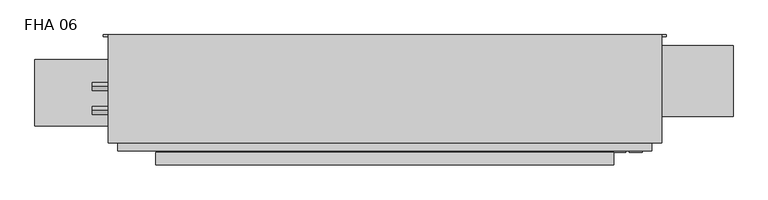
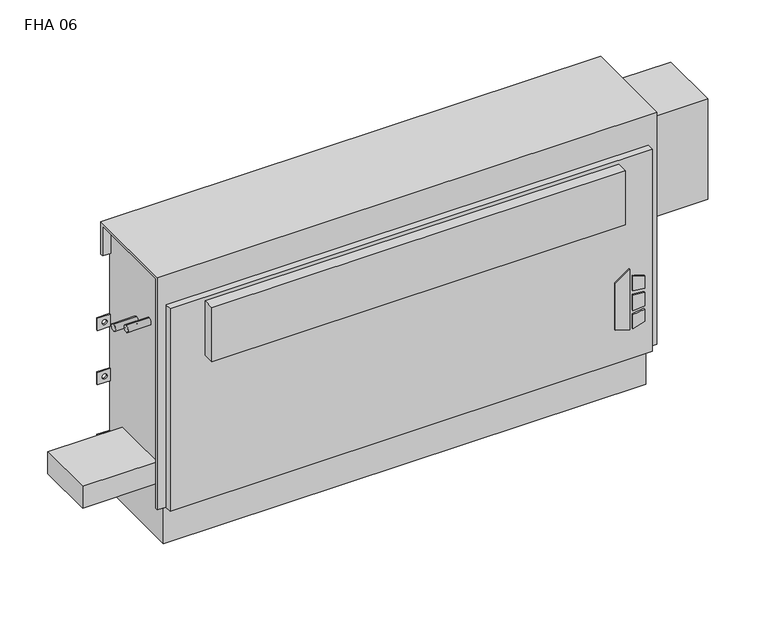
"""IFC4 building model written with IfcOpenShell, lengths in millimetres: proxy geometry, Vertical_Fan_Coil_Unit_-_FHA_-_IEC_-_2-Pipe_FS-FR_LH_2022 : FHA 06."""

from ifc_helpers import new_model, si_unit, point, frame, frame_2d, origin, place, context, project, spatial, polyline, circle_curve, trimmed, segment, composite_curve, outline, extrude, source, transform, mapped, element, save
from ifc_brep_helpers import plane_surface, revolved_surface, advanced_brep


def fha_06_5ad67739(model_context):
    return source(origin(), model_context, "Body", "SolidModel", [
        extrude(outline(polyline([(172.5771459, 601.7368862), (162.6290756, 633.9102728), (304.8, 633.9102728), (281.7779939, 601.7368862), (172.5771459, 601.7368862)])), frame((0.0, 9.525, 0.0), z_axis=(0.0, 1.0, 0.0), x_axis=(0.0, 0.0, 1.0)), (0.0, 0.0, 1.0), 3.175),
        extrude(outline(polyline([(251.5764313, 640.6686058), (248.3740387, 666.75), (277.6028798, 666.75), (285.6672948, 640.6686058), (251.5764313, 640.6686058)])), frame((0.0, 9.525, 0.0), z_axis=(0.0, 1.0, 0.0), x_axis=(0.0, 0.0, 1.0)), (0.0, 0.0, 1.0), 3.175),
        extrude(outline(polyline([(199.7129044, 666.75), (196.0474034, 640.6686058), (162.6290756, 640.6686058), (171.2633128, 666.75), (199.7129044, 666.75)])), frame((0.0, 9.525, 0.0), z_axis=(0.0, 1.0, 0.0), x_axis=(0.0, 0.0, 1.0)), (0.0, 0.0, 1.0), 3.175),
        extrude(outline(polyline([(239.0280658, 666.75), (241.3098921, 640.6686058), (205.3723436, 640.6686058), (208.1136086, 666.75), (239.0280658, 666.75)])), frame((0.0, 9.525, 0.0), z_axis=(0.0, 1.0, 0.0), x_axis=(0.0, 0.0, 1.0)), (0.0, 0.0, 1.0), 3.175),
        extrude(outline(composite_curve([segment(trimmed(circle_curve(frame_2d((-444.5, 128.5875)), 9.525), [point((-454.025, 128.5875))], [point((-434.975, 128.5875))], False, "CARTESIAN"), True, "CONTINUOUS"), segment(trimmed(circle_curve(frame_2d((-444.5, 128.5875)), 9.525), [point((-434.975, 128.5875))], [point((-454.025, 128.5875))], False, "CARTESIAN"), True, "CONTINUOUS")], self_intersect=False)), frame((0.0, 0.0, 101.6), z_axis=(0.0, 0.0, 1.0), x_axis=(1.0, 0.0, 0.0)), (0.0, 0.0, 1.0), 25.4),
        extrude(outline(polyline([(-546.1, 61.9125), (-546.1, 195.2625), (-381.0, 195.2625), (-381.0, 61.9125), (-546.1, 61.9125)])), frame((0.0, 0.0, 127.0), z_axis=(0.0, 0.0, 1.0), x_axis=(1.0, 0.0, 0.0)), (0.0, 0.0, 1.0), 50.8),
        extrude(outline(polyline([(609.6, -15.875), (-304.8, -15.875), (-304.8, 9.525), (609.6, 9.525), (609.6, -15.875)])), frame((0.0, 0.0, 431.8), z_axis=(0.0, 0.0, 1.0), x_axis=(1.0, 0.0, 0.0)), (0.0, 0.0, 1.0), 127.0),
        extrude(outline(composite_curve([segment(trimmed(circle_curve(frame_2d((93.1926, 488.0102)), 7.9375), [point((93.1926, 495.9477))], [point((93.1926, 480.0727))], False, "CARTESIAN"), True, "CONTINUOUS"), segment(trimmed(circle_curve(frame_2d((93.1926, 488.0102)), 7.9375), [point((93.1926, 480.0727))], [point((93.1926, 495.9477))], False, "CARTESIAN"), True, "CONTINUOUS")], self_intersect=False)), frame((-431.8, 0.0, 0.0), z_axis=(1.0, 0.0, 0.0), x_axis=(0.0, 1.0, 0.0)), (0.0, 0.0, 1.0), 50.8),
        extrude(outline(composite_curve([segment(trimmed(circle_curve(frame_2d((141.3002, 461.3402)), 7.9375), [point((141.3002, 469.2777))], [point((141.3002, 453.4027))], False, "CARTESIAN"), True, "CONTINUOUS"), segment(trimmed(circle_curve(frame_2d((141.3002, 461.3402)), 7.9375), [point((141.3002, 453.4027))], [point((141.3002, 469.2777))], False, "CARTESIAN"), True, "CONTINUOUS")], self_intersect=False)), frame((-431.8, 0.0, 0.0), z_axis=(1.0, 0.0, 0.0), x_axis=(0.0, 1.0, 0.0)), (0.0, 0.0, 1.0), 50.8),
        extrude(outline(polyline([(847.725, 223.266), (847.725, 81.534), (685.8, 81.534), (685.8, 223.266), (847.725, 223.266)])), frame((0.0, 0.0, 349.25), z_axis=(0.0, 0.0, 1.0), x_axis=(1.0, 0.0, 0.0)), (0.0, 0.0, 1.0), 234.95),
        advanced_brep(
        [(704.85, 244.475, 635.0), (-400.05, 244.475, 635.0), (-400.05, 28.575, 635.0), (704.85, 28.575, 635.0), (-381.0, 244.475, 0.0), (685.8, 244.475, 0.0), (685.8, 38.1, 0.0), (-381.0, 38.1, 0.0), (704.85, 244.475, 558.8), (685.8, 244.475, 558.8), (685.8, 244.475, 414.3375), (714.375, 244.475, 414.3375), (714.375, 244.475, 385.7625), (685.8, 244.475, 385.7625), (685.8, 244.475, 287.3375), (714.375, 244.475, 287.3375), (714.375, 244.475, 258.7625), (685.8, 244.475, 258.7625), (685.8, 244.475, 141.2875), (714.375, 244.475, 141.2875), (714.375, 244.475, 112.7125), (685.8, 244.475, 112.7125), (-381.0, 244.475, 112.7125), (-409.575, 244.475, 112.7125), (-409.575, 244.475, 141.2875), (-381.0, 244.475, 141.2875), (-381.0, 244.475, 258.7625), (-409.575, 244.475, 258.7625), (-409.575, 244.475, 287.3375), (-381.0, 244.475, 287.3375), (-381.0, 244.475, 385.7625), (-409.575, 244.475, 385.7625), (-409.575, 244.475, 414.3375), (-381.0, 244.475, 414.3375), (-381.0, 244.475, 558.8), (-400.05, 244.475, 558.8), (704.0626, 244.475, 127.0), (692.9374, 244.475, 127.0), (-388.1374, 244.475, 127.0), (-399.2626, 244.475, 127.0), (704.0626, 244.475, 273.05), (692.9374, 244.475, 273.05), (-388.1374, 244.475, 273.05), (-399.2626, 244.475, 273.05), (704.0626, 244.475, 400.05), (692.9374, 244.475, 400.05), (-388.1374, 244.475, 400.05), (-399.2626, 244.475, 400.05), (-400.05, 238.125, 558.8), (-400.05, 238.125, 628.65), (-400.05, 34.925, 628.65), (-400.05, 34.925, 92.075), (-400.05, 28.575, 92.075), (685.8, 12.7, 565.15), (-381.0, 12.7, 565.15), (-381.0, 12.7, 92.075), (685.8, 12.7, 92.075), (704.85, 28.575, 92.075), (704.85, 34.925, 92.075), (704.85, 34.925, 628.65), (704.85, 238.125, 628.65), (704.85, 238.125, 558.8), (-381.0, 28.575, 92.075), (-381.0, 28.575, 565.15), (685.8, 28.575, 565.15), (685.8, 28.575, 92.075), (-381.0, 34.925, 92.075), (-381.0, 38.1, 92.075), (685.8, 38.1, 92.075), (685.8, 34.925, 92.075), (685.8, 241.3, 112.7125), (685.8, 241.3, 141.2875), (685.8, 241.3, 258.7625), (685.8, 241.3, 287.3375), (685.8, 241.3, 385.7625), (685.8, 241.3, 414.3375), (685.8, 238.125, 558.8), (685.8, 238.125, 628.65), (685.8, 34.925, 628.65), (-381.0, 34.925, 628.65), (-381.0, 238.125, 628.65), (-381.0, 238.125, 558.8), (-381.0, 241.3, 414.3375), (-381.0, 241.3, 385.7625), (-381.0, 241.3, 287.3375), (-381.0, 241.3, 258.7625), (-381.0, 241.3, 141.2875), (-381.0, 241.3, 112.7125), (714.375, 241.3, 112.7125), (714.375, 241.3, 141.2875), (692.9374, 241.3, 127.0), (704.0626, 241.3, 127.0), (714.375, 241.3, 258.7625), (714.375, 241.3, 287.3375), (692.9374, 241.3, 273.05), (704.0626, 241.3, 273.05), (714.375, 241.3, 385.7625), (714.375, 241.3, 414.3375), (692.9374, 241.3, 400.05), (704.0626, 241.3, 400.05), (-409.575, 241.3, 141.2875), (-409.575, 241.3, 112.7125), (-399.2626, 241.3, 127.0), (-388.1374, 241.3, 127.0), (-409.575, 241.3, 287.3375), (-409.575, 241.3, 258.7625), (-399.2626, 241.3, 273.05), (-388.1374, 241.3, 273.05), (-409.575, 241.3, 414.3375), (-409.575, 241.3, 385.7625), (-399.2626, 241.3, 400.05), (-388.1374, 241.3, 400.05)],
        [
            (0, 1),
            (1, 2),
            (2, 3),
            (3, 0),
            (4, 5),
            (5, 6),
            (6, 7),
            (7, 4),
            (0, 8),
            (8, 9),
            (9, 10),
            (10, 11),
            (11, 12),
            (12, 13),
            (13, 14),
            (14, 15),
            (15, 16),
            (16, 17),
            (17, 18),
            (18, 19),
            (19, 20),
            (20, 21),
            (21, 5),
            (4, 22),
            (22, 23),
            (23, 24),
            (24, 25),
            (25, 26),
            (26, 27),
            (27, 28),
            (28, 29),
            (29, 30),
            (30, 31),
            (31, 32),
            (32, 33),
            (33, 34),
            (34, 35),
            (35, 1),
            (36, 37, circle_curve(frame((698.5, 244.475, 127.0), z_axis=(0.0, -1.0, 0.0), x_axis=(-1.0, 0.0, 0.0)), 5.5626)),
            (37, 36, circle_curve(frame((698.5, 244.475, 127.0), z_axis=(0.0, -1.0, 0.0), x_axis=(-1.0, 0.0, 0.0)), 5.5626)),
            (38, 39, circle_curve(frame((-393.7, 244.475, 127.0), z_axis=(0.0, -1.0, 0.0), x_axis=(-1.0, 0.0, 0.0)), 5.5626)),
            (39, 38, circle_curve(frame((-393.7, 244.475, 127.0), z_axis=(0.0, -1.0, 0.0), x_axis=(-1.0, 0.0, 0.0)), 5.5626)),
            (40, 41, circle_curve(frame((698.5, 244.475, 273.05), z_axis=(0.0, -1.0, 0.0), x_axis=(-1.0, 0.0, 0.0)), 5.5626)),
            (41, 40, circle_curve(frame((698.5, 244.475, 273.05), z_axis=(0.0, -1.0, 0.0), x_axis=(-1.0, 0.0, 0.0)), 5.5626)),
            (42, 43, circle_curve(frame((-393.7, 244.475, 273.05), z_axis=(0.0, -1.0, 0.0), x_axis=(-1.0, 0.0, 0.0)), 5.5626)),
            (43, 42, circle_curve(frame((-393.7, 244.475, 273.05), z_axis=(0.0, -1.0, 0.0), x_axis=(-1.0, 0.0, 0.0)), 5.5626)),
            (44, 45, circle_curve(frame((698.5, 244.475, 400.05), z_axis=(0.0, -1.0, 0.0), x_axis=(-1.0, 0.0, 0.0)), 5.5626)),
            (45, 44, circle_curve(frame((698.5, 244.475, 400.05), z_axis=(0.0, -1.0, 0.0), x_axis=(-1.0, 0.0, 0.0)), 5.5626)),
            (46, 47, circle_curve(frame((-393.7, 244.475, 400.05), z_axis=(0.0, -1.0, 0.0), x_axis=(-1.0, 0.0, 0.0)), 5.5626)),
            (47, 46, circle_curve(frame((-393.7, 244.475, 400.05), z_axis=(0.0, -1.0, 0.0), x_axis=(-1.0, 0.0, 0.0)), 5.5626)),
            (35, 48),
            (48, 49),
            (49, 50),
            (50, 51),
            (51, 52),
            (52, 2),
            (53, 54),
            (54, 55),
            (55, 56),
            (56, 53),
            (3, 57),
            (57, 58),
            (58, 59),
            (59, 60),
            (60, 61),
            (61, 8),
            (52, 62),
            (62, 63),
            (63, 64),
            (64, 65),
            (65, 57),
            (53, 64),
            (63, 54),
            (55, 62),
            (51, 66),
            (66, 67),
            (67, 68),
            (68, 69),
            (69, 58),
            (65, 56),
            (6, 68),
            (67, 7),
            (21, 70),
            (70, 71),
            (71, 18),
            (17, 72),
            (72, 73),
            (73, 14),
            (13, 74),
            (74, 75),
            (75, 10),
            (9, 76),
            (76, 77),
            (77, 78),
            (78, 69),
            (66, 79),
            (79, 80),
            (80, 81),
            (81, 34),
            (33, 82),
            (82, 83),
            (83, 30),
            (29, 84),
            (84, 85),
            (85, 26),
            (25, 86),
            (86, 87),
            (87, 22),
            (76, 61),
            (60, 77),
            (78, 59),
            (50, 79),
            (81, 48),
            (80, 49),
            (70, 88),
            (88, 89),
            (89, 71),
            (90, 91, circle_curve(frame((698.5, 241.3, 127.0), z_axis=(0.0, 1.0, 0.0), x_axis=(-1.0, 0.0, 0.0)), 5.5626)),
            (91, 90, circle_curve(frame((698.5, 241.3, 127.0), z_axis=(0.0, 1.0, 0.0), x_axis=(-1.0, 0.0, 0.0)), 5.5626)),
            (92, 93),
            (93, 73),
            (72, 92),
            (94, 95, circle_curve(frame((698.5, 241.3, 273.05), z_axis=(0.0, 1.0, 0.0), x_axis=(-1.0, 0.0, 0.0)), 5.5626)),
            (95, 94, circle_curve(frame((698.5, 241.3, 273.05), z_axis=(0.0, 1.0, 0.0), x_axis=(-1.0, 0.0, 0.0)), 5.5626)),
            (96, 97),
            (97, 75),
            (74, 96),
            (98, 99, circle_curve(frame((698.5, 241.3, 400.05), z_axis=(0.0, 1.0, 0.0), x_axis=(-1.0, 0.0, 0.0)), 5.5626)),
            (99, 98, circle_curve(frame((698.5, 241.3, 400.05), z_axis=(0.0, 1.0, 0.0), x_axis=(-1.0, 0.0, 0.0)), 5.5626)),
            (100, 101),
            (101, 87),
            (86, 100),
            (102, 103, circle_curve(frame((-393.7, 241.3, 127.0), z_axis=(0.0, 1.0, 0.0), x_axis=(-1.0, 0.0, 0.0)), 5.5626)),
            (103, 102, circle_curve(frame((-393.7, 241.3, 127.0), z_axis=(0.0, 1.0, 0.0), x_axis=(-1.0, 0.0, 0.0)), 5.5626)),
            (84, 104),
            (104, 105),
            (105, 85),
            (106, 107, circle_curve(frame((-393.7, 241.3, 273.05), z_axis=(0.0, 1.0, 0.0), x_axis=(-1.0, 0.0, 0.0)), 5.5626)),
            (107, 106, circle_curve(frame((-393.7, 241.3, 273.05), z_axis=(0.0, 1.0, 0.0), x_axis=(-1.0, 0.0, 0.0)), 5.5626)),
            (108, 109),
            (109, 83),
            (82, 108),
            (110, 111, circle_curve(frame((-393.7, 241.3, 400.05), z_axis=(0.0, 1.0, 0.0), x_axis=(-1.0, 0.0, 0.0)), 5.5626)),
            (111, 110, circle_curve(frame((-393.7, 241.3, 400.05), z_axis=(0.0, 1.0, 0.0), x_axis=(-1.0, 0.0, 0.0)), 5.5626)),
            (89, 19),
            (88, 20),
            (16, 92),
            (93, 15),
            (12, 96),
            (97, 11),
            (24, 100),
            (101, 23),
            (105, 27),
            (104, 28),
            (32, 108),
            (109, 31),
            (90, 37),
            (36, 91),
            (102, 39),
            (38, 103),
            (94, 41),
            (40, 95),
            (106, 43),
            (42, 107),
            (98, 45),
            (44, 99),
            (110, 47),
            (46, 111),
        ],
        [
            plane_surface(frame((-400.05, 244.475, 635.0), z_axis=(0.0, 0.0, 1.0), x_axis=(-1.0, 0.0, 0.0))),
            plane_surface(frame((-400.05, 244.475, 0.0), z_axis=(0.0, 0.0, -1.0), x_axis=(1.0, 0.0, 0.0))),
            plane_surface(frame((704.85, 244.475, 635.0), z_axis=(0.0, 1.0, 0.0), x_axis=(0.0, 0.0, -1.0))),
            plane_surface(frame((-400.05, 244.475, 635.0), z_axis=(-1.0, 0.0, 0.0), x_axis=(0.0, 0.0, -1.0))),
            plane_surface(frame((-400.05, 12.7, 635.0), z_axis=(0.0, -1.0, 0.0), x_axis=(0.0, 0.0, -1.0))),
            plane_surface(frame((704.85, 12.7, 635.0), z_axis=(1.0, 0.0, 0.0), x_axis=(0.0, 0.0, -1.0))),
            plane_surface(frame((-654.05, 28.575, 635.0), z_axis=(0.0, -1.0, 0.0), x_axis=(1.0, 0.0, 0.0))),
            plane_surface(frame((-654.05, 28.575, 565.15), z_axis=(0.0, 0.0, 1.0), x_axis=(1.0, 0.0, 0.0))),
            plane_surface(frame((-400.05, 12.7, 92.075), z_axis=(0.0, 0.0, -1.0), x_axis=(1.0, 0.0, 0.0))),
            plane_surface(frame((-400.05, 38.1, 92.075), z_axis=(0.0, -1.0, 0.0), x_axis=(1.0, 0.0, 0.0))),
            plane_surface(frame((685.8, 28.575, 92.075), z_axis=(1.0, 0.0, 0.0), x_axis=(0.0, -1.0, 0.0))),
            plane_surface(frame((-381.0, 28.575, 565.15), z_axis=(-1.0, 0.0, 0.0), x_axis=(0.0, -1.0, 0.0))),
            plane_surface(frame((685.8, 244.475, 0.0), z_axis=(1.0, 0.0, 0.0), x_axis=(0.0, -1.0, 0.0))),
            plane_surface(frame((-381.0, 244.475, 92.075), z_axis=(-1.0, 0.0, 0.0), x_axis=(0.0, -1.0, 0.0))),
            plane_surface(frame((685.8, 238.125, 628.65), z_axis=(0.0, -1.0, 0.0), x_axis=(1.0, 0.0, 0.0))),
            plane_surface(frame((685.8, 238.125, 558.8), z_axis=(0.0, 0.0, -1.0), x_axis=(1.0, 0.0, 0.0))),
            plane_surface(frame((685.8, 34.925, 92.075), z_axis=(0.0, 1.0, 0.0), x_axis=(1.0, 0.0, 0.0))),
            plane_surface(frame((685.8, 34.925, 628.65), z_axis=(0.0, 0.0, -1.0), x_axis=(1.0, 0.0, 0.0))),
            plane_surface(frame((-381.0, 34.925, 628.65), z_axis=(0.0, 1.0, 0.0), x_axis=(-1.0, 0.0, 0.0))),
            plane_surface(frame((-381.0, 244.475, 558.8), z_axis=(0.0, 0.0, -1.0), x_axis=(-1.0, 0.0, 0.0))),
            plane_surface(frame((-381.0, 238.125, 558.8), z_axis=(0.0, -1.0, 0.0), x_axis=(-1.0, 0.0, 0.0))),
            plane_surface(frame((-381.0, 238.125, 628.65), z_axis=(0.0, 0.0, -1.0), x_axis=(-1.0, 0.0, 0.0))),
            plane_surface(frame((714.375, 241.3, 141.2875), z_axis=(0.0, -1.0, 0.0), x_axis=(-1.0, 0.0, 0.0))),
            plane_surface(frame((685.8, 244.475, 141.2875), z_axis=(0.0, 0.0, 1.0), x_axis=(0.0, -1.0, 0.0))),
            plane_surface(frame((714.375, 244.475, 141.2875), z_axis=(1.0, 0.0, 0.0), x_axis=(0.0, -1.0, 0.0))),
            plane_surface(frame((714.375, 244.475, 112.7125), z_axis=(0.0, 0.0, -1.0), x_axis=(0.0, -1.0, 0.0))),
            plane_surface(frame((714.375, 244.475, 258.7625), z_axis=(0.0, 0.0, -1.0), x_axis=(0.0, -1.0, 0.0))),
            plane_surface(frame((685.8, 244.475, 287.3375), z_axis=(0.0, 0.0, 1.0), x_axis=(0.0, -1.0, 0.0))),
            plane_surface(frame((714.375, 244.475, 287.3375), z_axis=(1.0, 0.0, 0.0), x_axis=(0.0, -1.0, 0.0))),
            plane_surface(frame((714.375, 244.475, 385.7625), z_axis=(0.0, 0.0, -1.0), x_axis=(0.0, -1.0, 0.0))),
            plane_surface(frame((685.8, 244.475, 414.3375), z_axis=(0.0, 0.0, 1.0), x_axis=(0.0, -1.0, 0.0))),
            plane_surface(frame((714.375, 244.475, 414.3375), z_axis=(1.0, 0.0, 0.0), x_axis=(0.0, -1.0, 0.0))),
            plane_surface(frame((-409.575, 244.475, 141.2875), z_axis=(0.0, 0.0, 1.0), x_axis=(0.0, -1.0, 0.0))),
            plane_surface(frame((-381.0, 244.475, 112.7125), z_axis=(0.0, 0.0, -1.0), x_axis=(0.0, -1.0, 0.0))),
            plane_surface(frame((-409.575, 244.475, 112.7125), z_axis=(-1.0, 0.0, 0.0), x_axis=(0.0, -1.0, 0.0))),
            plane_surface(frame((-381.0, 244.475, 258.7625), z_axis=(0.0, 0.0, -1.0), x_axis=(0.0, -1.0, 0.0))),
            plane_surface(frame((-409.575, 244.475, 258.7625), z_axis=(-1.0, 0.0, 0.0), x_axis=(0.0, -1.0, 0.0))),
            plane_surface(frame((-409.575, 244.475, 287.3375), z_axis=(0.0, 0.0, 1.0), x_axis=(0.0, -1.0, 0.0))),
            plane_surface(frame((-409.575, 244.475, 414.3375), z_axis=(0.0, 0.0, 1.0), x_axis=(0.0, -1.0, 0.0))),
            plane_surface(frame((-381.0, 244.475, 385.7625), z_axis=(0.0, 0.0, -1.0), x_axis=(0.0, -1.0, 0.0))),
            plane_surface(frame((-409.575, 244.475, 385.7625), z_axis=(-1.0, 0.0, 0.0), x_axis=(0.0, -1.0, 0.0))),
            revolved_surface(polyline([(692.9374, 241.3, 127.0), (692.9374, 244.475, 127.0)]), (698.5, 244.475, 127.0), (0.0, -1.0, 0.0)),
            revolved_surface(polyline([(-399.26259999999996, 241.3, 127.0), (-399.26259999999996, 244.475, 127.0)]), (-393.7, 244.475, 127.0), (0.0, -1.0, 0.0)),
            revolved_surface(polyline([(692.9374, 241.3, 273.05), (692.9374, 244.475, 273.05)]), (698.5, 244.475, 273.05), (0.0, -1.0, 0.0)),
            revolved_surface(polyline([(-399.26259999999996, 241.3, 273.05), (-399.26259999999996, 244.475, 273.05)]), (-393.7, 244.475, 273.05), (0.0, -1.0, 0.0)),
            revolved_surface(polyline([(692.9374, 241.3, 400.05), (692.9374, 244.475, 400.05)]), (698.5, 244.475, 400.05), (0.0, -1.0, 0.0)),
            revolved_surface(polyline([(-399.26259999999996, 241.3, 400.05), (-399.26259999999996, 244.475, 400.05)]), (-393.7, 244.475, 400.05), (0.0, -1.0, 0.0)),
        ],
        [
            (0, [[1, 2, 3, 4]]),
            (1, [[5, 6, 7, 8]]),
            (2, [[-1, 9, 10, 11, 12, 13, 14, 15, 16, 17, 18, 19, 20, 21, 22, 23, -5, 24, 25, 26, 27, 28, 29, 30, 31, 32, 33, 34, 35, 36, 37, 38], [39, 40], [41, 42], [43, 44], [45, 46], [47, 48], [49, 50]]),
            (3, [[-2, -38, 51, 52, 53, 54, 55, 56]]),
            (4, [[57, 58, 59, 60]]),
            (5, [[-4, 61, 62, 63, 64, 65, 66, -9]]),
            (6, [[-3, -56, 67, 68, 69, 70, 71, -61]]),
            (7, [[-57, 72, -69, 73]]),
            (8, [[-59, 74, -67, -55, 75, 76, 77, 78, 79, -62, -71, 80]]),
            (9, [[-7, 81, -77, 82]]),
            (10, [[-70, -72, -60, -80]]),
            (11, [[-68, -74, -58, -73]]),
            (12, [[-6, -23, 83, 84, 85, -19, 86, 87, 88, -15, 89, 90, 91, -11, 92, 93, 94, 95, -78, -81]]),
            (13, [[-8, -82, -76, 96, 97, 98, 99, -36, 100, 101, 102, -32, 103, 104, 105, -28, 106, 107, 108, -24]]),
            (14, [[-93, 109, -65, 110]]),
            (15, [[-92, -10, -66, -109]]),
            (16, [[-95, 111, -63, -79]]),
            (17, [[-94, -110, -64, -111]]),
            (18, [[-96, -75, -54, 112]]),
            (19, [[-99, 113, -51, -37]]),
            (20, [[-98, 114, -52, -113]]),
            (21, [[-97, -112, -53, -114]]),
            (22, [[115, 116, 117, -84], [118, 119]]),
            (22, [[120, 121, -87, 122], [123, 124]]),
            (22, [[125, 126, -90, 127], [128, 129]]),
            (22, [[130, 131, -107, 132], [133, 134]]),
            (22, [[135, 136, 137, -104], [138, 139]]),
            (22, [[140, 141, -101, 142], [143, 144]]),
            (23, [[-117, 145, -20, -85]]),
            (24, [[-116, 146, -21, -145]]),
            (25, [[-115, -83, -22, -146]]),
            (26, [[-122, -86, -18, 147]]),
            (27, [[-121, 148, -16, -88]]),
            (28, [[-120, -147, -17, -148]]),
            (29, [[-127, -89, -14, 149]]),
            (30, [[-126, 150, -12, -91]]),
            (31, [[-125, -149, -13, -150]]),
            (32, [[-132, -106, -27, 151]]),
            (33, [[-131, 152, -25, -108]]),
            (34, [[-130, -151, -26, -152]]),
            (35, [[-137, 153, -29, -105]]),
            (36, [[-136, 154, -30, -153]]),
            (37, [[-135, -103, -31, -154]]),
            (38, [[-142, -100, -35, 155]]),
            (39, [[-141, 156, -33, -102]]),
            (40, [[-140, -155, -34, -156]]),
            (41, [[157, -39, 158, -118]]),
            (41, [[-157, -119, -158, -40]]),
            (42, [[159, -41, 160, -133]]),
            (42, [[-159, -134, -160, -42]]),
            (43, [[161, -43, 162, -123]]),
            (43, [[-161, -124, -162, -44]]),
            (44, [[163, -45, 164, -138]]),
            (44, [[-163, -139, -164, -46]]),
            (45, [[165, -47, 166, -128]]),
            (45, [[-165, -129, -166, -48]]),
            (46, [[167, -49, 168, -143]]),
            (46, [[-167, -144, -168, -50]]),
        ],
    ),
    ])


if __name__ == "__main__":
    model = new_model("IFC4")
    model_context = context("Model", 3, world=origin())
    ifc_project = project(units=[si_unit("LENGTHUNIT", "METRE", prefix="MILLI")], contexts=[model_context])
    site = spatial("IfcSite", under=ifc_project)
    building = spatial("IfcBuilding", under=site)
    placement = place(None, origin())
    fha_06_shape = fha_06_5ad67739(model_context)
    element("IfcBuildingElementProxy", 1, Name="Vertical_Fan_Coil_Unit_-_FHA_-_IEC_-_2-Pipe_FS-FR_LH_2022 : FHA 06", ObjectType="Vertical_Fan_Coil_Unit_-_FHA_-_IEC_-_2-Pipe_FS-FR_LH_2022 : FHA 06", at=placement, inside=building, context=model_context, shape_type="MappedRepresentation", body=[
        mapped(fha_06_shape, transform((0.0, 0.0, 0.0), x_axis=(1.0, 0.0, 0.0), y_axis=(0.0, 1.0, 0.0), z_axis=(0.0, 0.0, 1.0))),
    ])
    save(model, "model.ifc")
